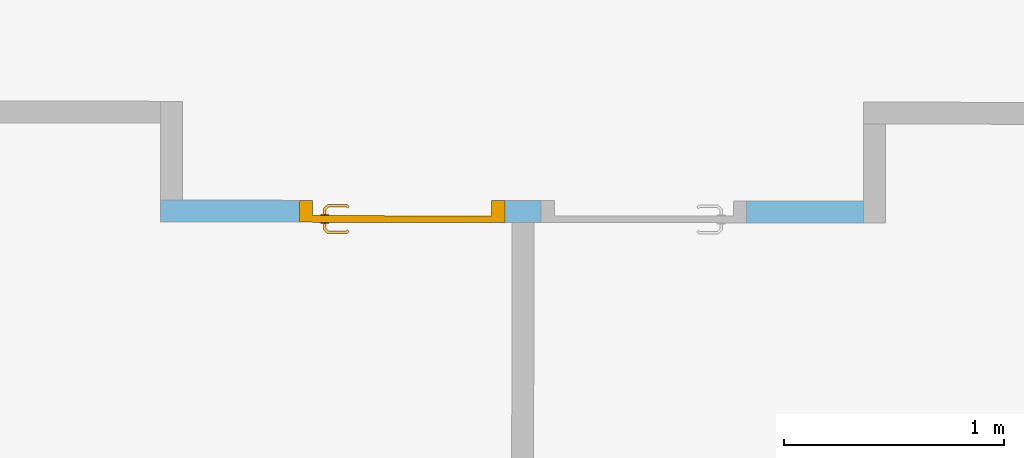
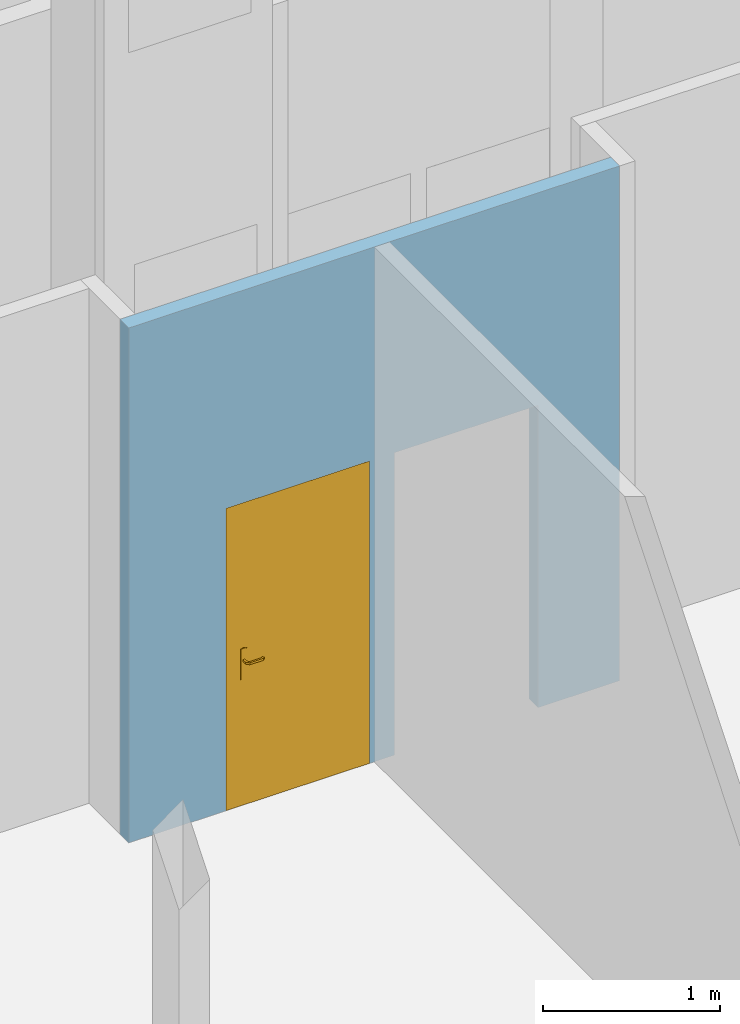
# One storey, part 46 of 101: 1 door, 2 openings, plus 1 element that does not belong to this part.
"""IFC2X3 building model written with IfcOpenShell, lengths in metres."""

import ifcopenshell
import ifcopenshell.guid

model = None  # the IFC model being written
_history = None  # IfcOwnerHistory: only IFC2X3 demands one
_inside = {}  # id of a spatial element -> (the spatial element, [elements in it])
_under = {}  # id of a project, library or spatial element -> (it, [spatial elements below it])
_declared = {}  # id of a project -> (the project, [libraries it declares])
_typed = {}  # id of a type object -> (the type object, [elements of that type])
_made_of = {}  # id of a material, layer set ... -> (it, [elements and type objects made of it])


def new_model(schema):
    """Start an empty IFC model of exactly this schema.

    Asked for "IFC4X3", IfcOpenShell would pick the latest addendum, in which some entities
    have other attributes; the version numbers below select the first issue.
    IFC2X3 requires an IfcOwnerHistory on every rooted entity: one is made here for all.
    """
    global model, _history
    if schema == "IFC4X3":
        model = ifcopenshell.file(schema_version=(4, 3, 0, 0))
    else:
        model = ifcopenshell.file(schema=schema)
    _inside.clear()
    _under.clear()
    _declared.clear()
    _typed.clear()
    _made_of.clear()
    _history = None
    if model.schema == "IFC2X3":
        org = make("IfcOrganization", Name="unknown")
        user = make(
            "IfcPersonAndOrganization",
            ThePerson=make("IfcPerson", FamilyName="unknown"),
            TheOrganization=org,
        )
        app = make(
            "IfcApplication",
            ApplicationDeveloper=org,
            Version="unknown",
            ApplicationFullName="unknown",
            ApplicationIdentifier="unknown",
        )
        _history = make(
            "IfcOwnerHistory",
            OwningUser=user,
            OwningApplication=app,
            ChangeAction="ADDED",
            CreationDate=0,
        )
    return model


def make(cls, **values):
    """One entity of the class cls with the attributes given. An attribute that is None is left unset."""
    return model.create_entity(
        cls, **{name: value for name, value in values.items() if value is not None}
    )


def entity(cls, *values):
    """Any entity or typed value of the class cls, its attributes in the order of the schema. None: left unset."""
    e = model.create_entity(cls)
    for i, value in enumerate(values):
        if value is not None:
            e[i] = value
    return e


def rooted(cls, **values):
    """An entity with a GlobalId (a new one), such as an element, a storey or a relation."""
    return make(cls, GlobalId=ifcopenshell.guid.new(), OwnerHistory=_history, **values)


def si_unit(unit_type, name, prefix=None):
    """IfcSIUnit, for example si_unit("LENGTHUNIT", "METRE", prefix="MILLI")."""
    return make("IfcSIUnit", UnitType=unit_type, Prefix=prefix, Name=name)


def converted_unit(unit_type, name, factor, base, dimensions=None, offset=None):
    """IfcConversionBasedUnit, such as the inch: factor (a typed value) times the base unit."""
    return make(
        "IfcConversionBasedUnit"
        if offset is None
        else "IfcConversionBasedUnitWithOffset",
        ConversionOffset=offset,
        Dimensions=None
        if dimensions is None
        else entity("IfcDimensionalExponents", *dimensions),
        UnitType=unit_type,
        Name=name,
        ConversionFactor=make(
            "IfcMeasureWithUnit", ValueComponent=factor, UnitComponent=base
        ),
    )


def derived_unit(unit_type, elements):
    """IfcDerivedUnit: a product of units, each with its exponent."""
    return make(
        "IfcDerivedUnit",
        Elements=[
            make("IfcDerivedUnitElement", Unit=unit, Exponent=power)
            for unit, power in elements
        ],
        UnitType=unit_type,
    )


def assignment(units):
    """IfcUnitAssignment: the units of a project."""
    return None if units is None else make("IfcUnitAssignment", Units=units)


def point(xyz):
    """IfcCartesianPoint."""
    return None if xyz is None else make("IfcCartesianPoint", Coordinates=xyz)


def direction(xyz):
    """IfcDirection."""
    return None if xyz is None else make("IfcDirection", DirectionRatios=xyz)


def frame(location, z_axis=None, x_axis=None):
    """IfcAxis2Placement3D, a coordinate frame: its origin and axes. An axis left out is left unset."""
    return make(
        "IfcAxis2Placement3D",
        Location=point(location),
        Axis=direction(z_axis),
        RefDirection=direction(x_axis),
    )


def frame_2d(location, x_axis=None):
    """IfcAxis2Placement2D, a coordinate frame in the plane: its origin and x axis."""
    return make(
        "IfcAxis2Placement2D", Location=point(location), RefDirection=direction(x_axis)
    )


def origin():
    """The frame at (0, 0, 0) with its axes left unset."""
    return frame((0.0, 0.0, 0.0))


def place(relative_to, where):
    """IfcLocalPlacement: puts the frame where relative to a parent placement (None: the world)."""
    return make(
        "IfcLocalPlacement", PlacementRelTo=relative_to, RelativePlacement=where
    )


def context(
    kind, dimensions, precision=None, world=None, true_north=None, identifier=None
):
    """IfcGeometricRepresentationContext, for example the 3D "Model" context."""
    return make(
        "IfcGeometricRepresentationContext",
        ContextIdentifier=identifier,
        ContextType=kind,
        CoordinateSpaceDimension=dimensions,
        Precision=precision,
        WorldCoordinateSystem=world,
        TrueNorth=true_north,
    )


def subcontext(parent, identifier, kind, view, scale=None):
    """IfcGeometricRepresentationSubContext, for example "Body" below "Model"."""
    return make(
        "IfcGeometricRepresentationSubContext",
        ContextIdentifier=identifier,
        ContextType=kind,
        ParentContext=parent,
        TargetScale=scale,
        TargetView=view,
    )


def project(units=None, contexts=None):
    """IfcProject with its units and contexts."""
    return rooted(
        "IfcProject",
        Name="project",
        RepresentationContexts=contexts,
        UnitsInContext=assignment(units),
    )


def spatial(cls, under=None, at=None, **own):
    """A site, building, storey or space (cls), placed at a placement, below another one or the project."""
    s = rooted(cls, ObjectPlacement=at, **own)
    if under is not None:
        _under.setdefault(under.id(), (under, []))[1].append(s)
    return s


def profile(cls, at=None, kind="AREA", **sizes):
    """A parametric profile (cls). Its sizes go by their IFC names, for example OverallWidth=200.0."""
    return make(cls, ProfileType=kind, Position=at, **sizes)


def rectangle(**sizes):
    """IfcRectangleProfileDef."""
    return profile("IfcRectangleProfileDef", **sizes)


def extrude(swept, where, along, depth):
    """IfcExtrudedAreaSolid: the profile swept, set in the frame where, extruded along a direction by depth."""
    return make(
        "IfcExtrudedAreaSolid",
        SweptArea=swept,
        Position=where,
        ExtrudedDirection=direction(along),
        Depth=depth,
    )


def faces_of(points, faces, orient=None, outer=None):
    """IfcFace entities. A face is a list of loops; a loop is a list of indices into points, from 0.

    orient and outer hold one flag for each loop. By default every Orientation is true, the
    first loop of a face is its IfcFaceOuterBound and the others are IfcFaceBound.
    """
    made = []
    for i, loops in enumerate(faces):
        bounds = []
        for j, loop in enumerate(loops):
            is_outer = j == 0 if outer is None else outer[i][j]
            bounds.append(
                make(
                    "IfcFaceOuterBound" if is_outer else "IfcFaceBound",
                    Bound=make("IfcPolyLoop", Polygon=[points[k] for k in loop]),
                    Orientation=True if orient is None else orient[i][j],
                )
            )
        made.append(make("IfcFace", Bounds=bounds))
    return made


def faceted_brep(points, faces, orient=None, outer=None, voids=None):
    """IfcFacetedBrep: a solid bounded by flat faces; with voids (closed shells), ...WithVoids."""
    shared = [point(p) for p in points]
    hull = make("IfcClosedShell", CfsFaces=faces_of(shared, faces, orient, outer))
    if voids is None:
        return make("IfcFacetedBrep", Outer=hull)
    return make(
        "IfcFacetedBrepWithVoids",
        Outer=hull,
        Voids=[
            make(cls, CfsFaces=faces_of(shared, fs, o, b)) for cls, fs, o, b in voids
        ],
    )


def shape(context_of_items, identifier, shape_type, items):
    """IfcShapeRepresentation: the items that make up one representation, for example the "Body"."""
    return make(
        "IfcShapeRepresentation",
        ContextOfItems=context_of_items,
        RepresentationIdentifier=identifier,
        RepresentationType=shape_type,
        Items=items,
    )


def source(mapping_origin, context_of_items, identifier, shape_type, items):
    """IfcRepresentationMap: a shape defined once, which mapped items show again and again."""
    return make(
        "IfcRepresentationMap",
        MappingOrigin=mapping_origin,
        MappedRepresentation=shape(context_of_items, identifier, shape_type, items),
    )


def transform(
    local_origin,
    x_axis=None,
    y_axis=None,
    z_axis=None,
    scale=None,
    scale2=None,
    scale3=None,
    uniform=True,
):
    """IfcCartesianTransformationOperator3D, or its non-uniform kind. x_axis, y_axis, z_axis: its Axis1, 2, 3."""
    if uniform:
        return make(
            "IfcCartesianTransformationOperator3D",
            Axis1=direction(x_axis),
            Axis2=direction(y_axis),
            LocalOrigin=point(local_origin),
            Scale=scale,
            Axis3=direction(z_axis),
        )
    return make(
        "IfcCartesianTransformationOperator3DnonUniform",
        Axis1=direction(x_axis),
        Axis2=direction(y_axis),
        LocalOrigin=point(local_origin),
        Scale=scale,
        Axis3=direction(z_axis),
        Scale2=scale2,
        Scale3=scale3,
    )


def mapped(mapping_source, mapping_target):
    """IfcMappedItem: shows the shape of a source again, moved by a transform."""
    return make(
        "IfcMappedItem", MappingSource=mapping_source, MappingTarget=mapping_target
    )


def material(Name=None, Category=None):
    """IfcMaterial."""
    return make("IfcMaterial", Name=Name, Category=Category)


def material_list(materials):
    """IfcMaterialList."""
    return make("IfcMaterialList", Materials=materials)


def layer(
    of_material, thickness, ventilated=None, Name=None, Category=None, Priority=None
):
    """IfcMaterialLayer: one layer of a wall or slab, of a material (None: an air gap)."""
    return make(
        "IfcMaterialLayer",
        Material=of_material,
        LayerThickness=thickness,
        IsVentilated=ventilated,
        Name=Name,
        Category=Category,
        Priority=Priority,
    )


def layer_set(layers, Name=None):
    """IfcMaterialLayerSet."""
    return make("IfcMaterialLayerSet", MaterialLayers=layers, LayerSetName=Name)


def layer_usage(for_layer_set, set_direction, sense, offset, extent=None):
    """IfcMaterialLayerSetUsage: how a layer set lies in its element."""
    return make(
        "IfcMaterialLayerSetUsage",
        ForLayerSet=for_layer_set,
        LayerSetDirection=set_direction,
        DirectionSense=sense,
        OffsetFromReferenceLine=offset,
        ReferenceExtent=extent,
    )


def made_of(thing, what):
    """Note that an element or type object is made of a material, layer set ...; save() writes the relation."""
    if what is not None:
        _made_of.setdefault(what.id(), (what, []))[1].append(thing)
    return thing


def type_object(cls, material=None, **own):
    """A type object (cls), such as IfcWallType, which elements share."""
    return made_of(rooted(cls, **own), material)


def type_shapes(of_type, sources):
    """Give a type object the sources (RepresentationMaps) that its elements show as mapped items."""
    of_type.RepresentationMaps = sources


def element(
    cls,
    number,
    at=None,
    inside=None,
    cuts=None,
    type_object=None,
    material=None,
    context=None,
    identifier="Body",
    shape_type=None,
    held_by="IfcProductDefinitionShape",
    body=None,
    shapes=None,
    **own,
):
    """One element of the class cls, such as IfcWall. Its Tag is "e" and its number.

    at: its placement. inside: the storey or other place that contains it. cuts: it is an
    opening in that element (IfcRelVoidsElement). A single representation is given by context,
    identifier, shape_type and body (its items); several are given by shapes. held_by: the class
    of the entity that holds the representations. save() writes the other relations.
    """
    e = rooted(cls, Tag="e%d" % number, ObjectPlacement=at, **own)
    if body is not None:
        shapes = [shape(context, identifier, shape_type, body)]
    if shapes is not None:
        e.Representation = make(held_by, Representations=shapes)
    if inside is not None:
        _inside.setdefault(inside.id(), (inside, []))[1].append(e)
    if cuts is not None:
        rooted(
            "IfcRelVoidsElement", RelatingBuildingElement=cuts, RelatedOpeningElement=e
        )
    if type_object is not None:
        _typed.setdefault(type_object.id(), (type_object, []))[1].append(e)
    return made_of(e, material)


def fill(opening, filler):
    """IfcRelFillsElement: the door or window that sits in an opening."""
    return rooted(
        "IfcRelFillsElement",
        RelatingOpeningElement=opening,
        RelatedBuildingElement=filler,
    )


def aggregate(whole, parts):
    """IfcRelAggregates: a whole, such as a stair, and the parts it consists of."""
    return rooted("IfcRelAggregates", RelatingObject=whole, RelatedObjects=parts)


def save(model, path):
    """Write the relations noted so far, then the file.

    IfcRelAggregates (storeys below a building ...), IfcRelContainedInSpatialStructure (elements
    in a storey), IfcRelDefinesByType, IfcRelAssociatesMaterial and IfcRelDeclares: one each for
    every whole, place, type object, material and project.
    """
    for whole, parts in _under.values():
        aggregate(whole, parts)
    for where, things in _inside.values():
        rooted(
            "IfcRelContainedInSpatialStructure",
            RelatedElements=things,
            RelatingStructure=where,
        )
    for kind, things in _typed.values():
        rooted("IfcRelDefinesByType", RelatedObjects=things, RelatingType=kind)
    for what, things in _made_of.values():
        rooted("IfcRelAssociatesMaterial", RelatedObjects=things, RelatingMaterial=what)
    for by, libraries in _declared.values():
        rooted("IfcRelDeclares", RelatingContext=by, RelatedDefinitions=libraries)
    model.write(path)


model = new_model("IFC2X3")

# Units and contexts
model_context = context("Model", 3, precision=1e-05, world=origin(), true_north=direction((6.123233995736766e-17, 1.0)))
body_context = subcontext(model_context, "Body", "Model", "MODEL_VIEW")
ifc_project = project(units=[si_unit("LENGTHUNIT", "METRE"), si_unit("AREAUNIT", "SQUARE_METRE"), converted_unit("PLANEANGLEUNIT", "DEGREE", entity("IfcPlaneAngleMeasure", 0.017453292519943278), si_unit("PLANEANGLEUNIT", "RADIAN"), dimensions=[0, 0, 0, 0, 0, 0, 0]), derived_unit("THERMALTRANSMITTANCEUNIT", [(si_unit("MASSUNIT", "GRAM", prefix="KILO"), 1), (si_unit("THERMODYNAMICTEMPERATUREUNIT", "KELVIN"), -1), (si_unit("TIMEUNIT", "SECOND"), -3)])], contexts=[model_context])

# Site, building, storey
site_placement = place(None, frame((1253.6752467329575, 2072.143113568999, 91.49999999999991), z_axis=(0.0, 0.0, 1.0), x_axis=(0.7237211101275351, 0.6900925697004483, 0.0)))
site = spatial("IfcSite", under=ifc_project, at=site_placement, Name="Surface", CompositionType="ELEMENT")
building_placement = place(site_placement, origin())
building = spatial("IfcBuilding", under=site, at=building_placement, CompositionType="ELEMENT")
storey_placement = place(building_placement, origin())
storey = spatial("IfcBuildingStorey", under=building, at=storey_placement, Name="0- Rdc", CompositionType="ELEMENT", Elevation=-5.764692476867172e-13)

# Wall, openings, door
ifc_material_1 = material(Name="OMD_Béton blanc")
ifc_layer = layer(ifc_material_1, 0.1)
ifc_layer_set = layer_set([ifc_layer], Name="Mur de base:MUR 10")
ifc_layer_usage = layer_usage(ifc_layer_set, "AXIS2", "NEGATIVE", 0.05)
wall_type = type_object("IfcWallType", Name="Mur de base:MUR 10", PredefinedType="STANDARD", material=ifc_layer_set)
wall_placement = place(storey_placement, frame((155.02169583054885, 2.2505814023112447, 0.0), z_axis=(0.0, 0.0, 1.0), x_axis=(0.722870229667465, -0.6909838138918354, 0.0)))
wall = element("IfcWallStandardCase", 1, at=wall_placement, inside=storey, type_object=wall_type, material=ifc_layer_usage, Name="Mur de base:MUR 10", ObjectType="Mur de base:MUR 10", context=body_context, shape_type="SweptSolid", body=[
    extrude(rectangle(XDim=3.2000000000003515, YDim=0.09999999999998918, at=frame_2d((1.600000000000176, 2.588207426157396e-15), x_axis=(-1.0, 0.0))), origin(), (0.0, 0.0, 1.0), 3.5499999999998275),
])
opening_1_placement = place(wall_placement, frame((2.667499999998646, 0.05000000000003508, 0.0)))
element("IfcOpeningElement", 2, at=opening_1_placement, cuts=wall, Name="OMD_Porte 1V tunnel:80x204:1", ObjectType="Opening", context=body_context, shape_type="SweptSolid", body=[
    extrude(rectangle(XDim=2.0850000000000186, YDim=0.9349999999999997, at=frame_2d((1.0425000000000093, 0.46749999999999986), x_axis=(1.0, 0.0))), frame((0.0, 0.0, 0.0), z_axis=(0.0, -1.0, 0.0), x_axis=(0.0, 0.0, 1.0)), (0.0, 0.0, 1.0), 0.09999999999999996),
])
opening_2_placement = place(wall_placement, frame((1.5674999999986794, 0.05000000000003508, 0.0)))
opening_2 = element("IfcOpeningElement", 3, at=opening_2_placement, cuts=wall, Name="OMD_Porte 1V tunnel:80x204:1", ObjectType="Opening", context=body_context, shape_type="SweptSolid", body=[
    extrude(rectangle(XDim=2.0850000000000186, YDim=0.9349999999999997, at=frame_2d((1.0425000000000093, 0.46749999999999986), x_axis=(1.0, 0.0))), frame((0.0, 0.0, 0.0), z_axis=(0.0, -1.0, 0.0), x_axis=(0.0, 0.0, 1.0)), (0.0, 0.0, 1.0), 0.09999999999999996),
])
ifc_material_2 = material(Name="Porte - Poignée")
ifc_material_3 = material(Name="OMD_Peinture mur")
ifc_material_4 = material(Name="OMD_Bois")
ifc_material_list = material_list([ifc_material_2, ifc_material_3, ifc_material_4])
door_style = type_object("IfcDoorStyle", Name="OMD_Porte 1V tunnel:80x204", ConstructionType="NOTDEFINED", OperationType="NOTDEFINED", ParameterTakesPrecedence=False, Sizeable=False, material=ifc_material_list)
shared_shape = source(origin(), body_context, "Body", "Brep", [
    faceted_brep([(0.21297470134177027, 0.03500000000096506, 1.0077804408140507), (0.20900000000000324, 0.03500000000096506, 1.0069999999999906), (0.208999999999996, 0.03500000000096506, 0.9929999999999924), (0.21297470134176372, 0.03500000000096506, 0.9922195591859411), (0.21702529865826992, 0.03500000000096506, 0.9922195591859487), (0.22100000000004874, 0.03500000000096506, 0.9930000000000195), (0.22100000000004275, 0.03500000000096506, 1.0069999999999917), (0.2170252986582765, 0.03500000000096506, 1.007780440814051), (0.22100000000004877, 0.05748520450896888, 0.9930000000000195), (0.22100000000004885, 0.057485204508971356, 1.0069999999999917), (0.21702529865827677, 0.059131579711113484, 1.007780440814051), (0.23083890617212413, 0.07294518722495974, 1.007780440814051), (0.2291610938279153, 0.07699578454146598, 1.0077804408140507), (0.21297470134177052, 0.060809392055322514, 1.0077804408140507), (0.3206847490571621, 0.0664673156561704, 1.0077804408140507), (0.32354895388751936, 0.06933152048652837, 1.0077804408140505), (0.31588468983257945, 0.07699578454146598, 1.0077804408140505), (0.31420687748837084, 0.07294518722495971, 1.0077804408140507), (0.20900000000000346, 0.06245576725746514, 1.0069999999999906), (0.20900000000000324, 0.06245576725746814, 0.9929999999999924), (0.21297470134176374, 0.06080939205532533, 0.9922195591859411), (0.22916109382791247, 0.07699578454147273, 0.9922195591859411), (0.23083890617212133, 0.07294518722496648, 0.9922195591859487), (0.21702529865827, 0.05913157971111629, 0.9922195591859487), (0.32354895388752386, 0.06933152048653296, 0.9922195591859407), (0.3206847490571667, 0.06646731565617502, 0.9922195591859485), (0.3142068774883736, 0.07294518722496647, 0.9922195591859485), (0.3158846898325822, 0.07699578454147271, 0.9922195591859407), (0.23248528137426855, 0.0689704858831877, 0.9930000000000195), (0.23248528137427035, 0.06897048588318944, 1.0069999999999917), (0.22751471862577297, 0.0809704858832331, 1.0069999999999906), (0.22751471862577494, 0.08097048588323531, 0.9929999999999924), (0.2725228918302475, 0.06897048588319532, 0.9930000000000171), (0.3125605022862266, 0.06897048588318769, 0.9930000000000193), (0.31256050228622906, 0.06897048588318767, 1.0069999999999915), (0.2725228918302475, 0.0689704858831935, 1.0069999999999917), (0.2725228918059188, 0.07512492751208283, 1.0078781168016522), (0.31753106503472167, 0.08097048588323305, 1.0069999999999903), (0.2776005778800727, 0.08097048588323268, 1.0069999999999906), (0.31753106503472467, 0.08097048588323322, 0.9929999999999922), (0.2674452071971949, 0.08097048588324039, 0.9929999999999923), (0.2725228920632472, 0.07512492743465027, 0.9921218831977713), (0.317874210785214, 0.06365677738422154, 0.9930000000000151), (0.32635949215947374, 0.07214205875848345, 0.99299999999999), (0.3263594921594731, 0.07214205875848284, 1.0069999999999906), (0.317874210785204, 0.06365677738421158, 1.0069999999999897)], [[[0, 1, 2, 3, 4, 5, 6, 7]], [[6, 5, 8, 9]], [[9, 10, 7, 6]], [[10, 11, 12, 13, 0, 7]], [[14, 15, 16, 17]], [[13, 18, 1, 0]], [[2, 1, 18, 19]], [[19, 20, 3, 2]], [[20, 21, 22, 23, 4, 3]], [[24, 25, 26, 27]], [[23, 8, 5, 4]], [[9, 8, 28, 29]], [[29, 11, 10, 9]], [[12, 30, 18, 13]], [[19, 18, 30, 31]], [[31, 21, 20, 19]], [[22, 28, 8, 23]], [[29, 28, 32, 33, 34, 35]], [[11, 35, 36]], [[16, 37, 38]], [[30, 12, 38]], [[38, 12, 36]], [[36, 35, 17]], [[17, 16, 36]], [[35, 11, 29]], [[34, 17, 35]], [[11, 36, 12]], [[38, 36, 16]], [[31, 30, 38, 37, 39, 40]], [[40, 41, 21]], [[41, 40, 27]], [[21, 31, 40]], [[39, 27, 40]], [[41, 32, 22]], [[22, 21, 41]], [[26, 32, 41]], [[28, 22, 32]], [[32, 26, 33]], [[26, 41, 27]], [[42, 25, 24, 43, 44, 15, 14, 45]], [[34, 33, 42, 45]], [[45, 14, 17, 34]], [[15, 44, 37, 16]], [[39, 37, 44, 43]], [[43, 24, 27, 39]], [[25, 42, 33, 26]]]),
    faceted_brep([(0.21297470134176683, -0.004999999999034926, 1.0077804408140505), (0.2170252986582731, -0.004999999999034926, 1.007780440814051), (0.2210000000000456, -0.004999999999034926, 1.006999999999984), (0.22100000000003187, -0.004999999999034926, 0.9930000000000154), (0.21702529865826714, -0.004999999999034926, 0.9922195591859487), (0.21297470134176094, -0.004999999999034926, 0.992219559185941), (0.20900000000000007, -0.004999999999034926, 0.992999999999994), (0.20900000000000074, -0.004999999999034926, 1.0069999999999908), (0.20900000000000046, -0.03265095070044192, 1.0069999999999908), (0.21297470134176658, -0.03100457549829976, 1.0077804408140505), (0.22902358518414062, -0.04705345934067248, 1.0077804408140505), (0.2307013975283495, -0.04300286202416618, 1.007780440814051), (0.21702529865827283, -0.02932676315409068, 1.007780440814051), (0.3235218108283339, -0.039389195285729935, 1.0077804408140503), (0.3206576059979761, -0.03652499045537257, 1.0077804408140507), (0.3141797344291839, -0.04300286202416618, 1.0077804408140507), (0.31585754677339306, -0.04705345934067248, 1.0077804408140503), (0.22100000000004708, -0.027680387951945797, 1.0069999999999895), (0.22100000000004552, -0.02768038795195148, 0.9930000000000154), (0.21702529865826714, -0.029326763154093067, 0.9922195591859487), (0.23070139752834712, -0.04300286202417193, 0.9922195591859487), (0.2290235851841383, -0.0470534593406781, 0.992219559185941), (0.21297470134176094, -0.031004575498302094, 0.992219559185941), (0.32065760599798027, -0.036524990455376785, 0.9922195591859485), (0.3235218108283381, -0.03938919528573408, 0.9922195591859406), (0.31585754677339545, -0.047053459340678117, 0.9922195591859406), (0.3141797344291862, -0.04300286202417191, 0.9922195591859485), (0.20899999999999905, -0.032650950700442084, 0.9929999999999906), (0.22737720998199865, -0.051028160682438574, 1.0069999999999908), (0.23234777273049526, -0.03902816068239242, 1.0069999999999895), (0.23234777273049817, -0.03902816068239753, 0.9930000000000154), (0.22737720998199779, -0.051028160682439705, 0.9929999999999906), (0.2673076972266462, -0.05102816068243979, 1.0069999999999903), (0.272440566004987, -0.0451828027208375, 1.0078781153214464), (0.3175039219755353, -0.05102816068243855, 1.0069999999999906), (0.27244056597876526, -0.039028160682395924, 1.0069999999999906), (0.3125333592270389, -0.03902816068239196, 1.0069999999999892), (0.31253335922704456, -0.03902816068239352, 0.9930000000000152), (0.27244056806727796, -0.03902816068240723, 0.9930000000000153), (0.27244056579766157, -0.04518280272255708, 0.9921218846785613), (0.3175039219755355, -0.051028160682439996, 0.9929999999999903), (0.27757344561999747, -0.051028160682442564, 0.9929999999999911), (0.3178470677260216, -0.03371445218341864, 1.0069999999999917), (0.3263323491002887, -0.04219973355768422, 1.0069999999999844), (0.3263323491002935, -0.04219973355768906, 0.9929999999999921), (0.31784706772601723, -0.033714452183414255, 0.9930000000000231)], [[[0, 1, 2, 3, 4, 5, 6, 7]], [[8, 9, 0, 7]], [[9, 10, 11, 12, 1, 0]], [[13, 14, 15, 16]], [[12, 17, 2, 1]], [[3, 2, 17, 18]], [[18, 19, 4, 3]], [[19, 20, 21, 22, 5, 4]], [[23, 24, 25, 26]], [[22, 27, 6, 5]], [[7, 6, 27, 8]], [[28, 10, 9, 8]], [[11, 29, 17, 12]], [[18, 17, 29, 30]], [[30, 20, 19, 18]], [[21, 31, 27, 22]], [[8, 27, 31, 28]], [[32, 33, 10]], [[33, 32, 16]], [[10, 28, 32]], [[34, 16, 32]], [[33, 35, 11]], [[11, 10, 33]], [[15, 35, 33]], [[29, 11, 35]], [[35, 15, 36]], [[15, 33, 16]], [[30, 29, 35, 36, 37, 38]], [[20, 38, 39]], [[25, 40, 41]], [[31, 21, 41]], [[41, 21, 39]], [[39, 38, 26]], [[26, 25, 39]], [[38, 20, 30]], [[37, 26, 38]], [[20, 39, 21]], [[41, 39, 25]], [[28, 31, 41, 40, 34, 32]], [[42, 14, 13, 43, 44, 24, 23, 45]], [[43, 13, 16, 34]], [[14, 42, 36, 15]], [[37, 36, 42, 45]], [[45, 23, 26, 37]], [[24, 44, 40, 25]], [[34, 40, 44, 43]]]),
    faceted_brep([(0.22535276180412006, 0.030000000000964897, 0.8660039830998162), (0.2350000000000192, 0.030000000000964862, 0.8700000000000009), (0.2350000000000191, 0.030000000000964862, 1.0800000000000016), (0.2253527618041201, 0.030000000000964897, 1.0839960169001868), (0.21500000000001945, 0.030000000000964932, 1.0853589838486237), (0.20464723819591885, 0.03000000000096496, 1.0839960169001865), (0.19500000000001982, 0.030000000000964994, 1.0800000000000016), (0.19500000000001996, 0.030000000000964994, 0.8700000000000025), (0.20464723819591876, 0.03000000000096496, 0.866003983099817), (0.21500000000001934, 0.030000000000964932, 0.8646410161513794), (0.22535276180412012, 0.0350000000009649, 1.0839960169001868), (0.2350000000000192, 0.03500000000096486, 1.0800000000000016), (0.23500000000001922, 0.03500000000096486, 0.8700000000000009), (0.22535276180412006, 0.0350000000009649, 0.8660039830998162), (0.21500000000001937, 0.03500000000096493, 0.8646410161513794), (0.20464723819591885, 0.03500000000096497, 0.866003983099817), (0.19500000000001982, 0.035000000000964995, 0.8700000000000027), (0.19500000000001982, 0.035000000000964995, 1.0800000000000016), (0.20464723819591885, 0.03500000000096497, 1.0839960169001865), (0.21500000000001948, 0.03500000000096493, 1.0853589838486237)], [[[0, 1, 2, 3, 4, 5, 6, 7, 8, 9]], [[10, 11, 12, 13, 14, 15, 16, 17, 18, 19]], [[11, 10, 3, 2]], [[3, 10, 19, 4]], [[19, 18, 5, 4]], [[18, 17, 6, 5]], [[7, 6, 17, 16]], [[16, 15, 8, 7]], [[8, 15, 14, 9]], [[14, 13, 0, 9]], [[13, 12, 1, 0]], [[2, 1, 12, 11]]]),
    faceted_brep([(0.22535276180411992, -0.004999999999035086, 0.8660039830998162), (0.2350000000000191, -0.004999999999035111, 0.8700000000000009), (0.23500000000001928, -0.004999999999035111, 1.0800000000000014), (0.22535276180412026, -0.004999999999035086, 1.0839960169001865), (0.2150000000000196, -0.004999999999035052, 1.0853589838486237), (0.20464723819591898, -0.0049999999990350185, 1.0839960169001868), (0.19500000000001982, -0.004999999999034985, 1.0800000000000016), (0.19500000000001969, -0.004999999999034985, 0.8700000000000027), (0.20464723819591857, -0.0049999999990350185, 0.8660039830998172), (0.21500000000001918, -0.004999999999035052, 0.8646410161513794), (0.22535276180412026, 0.0, 1.0839960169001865), (0.2350000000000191, 0.0, 1.0800000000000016), (0.2350000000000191, 0.0, 0.8700000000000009), (0.22535276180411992, 0.0, 0.8660039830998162), (0.21500000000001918, 0.0, 0.8646410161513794), (0.20464723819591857, 0.0, 0.8660039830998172), (0.19500000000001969, 0.0, 0.8700000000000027), (0.19500000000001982, 0.0, 1.0800000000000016), (0.20464723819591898, 0.0, 1.0839960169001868), (0.2150000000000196, 0.0, 1.0853589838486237)], [[[0, 1, 2, 3, 4, 5, 6, 7, 8, 9]], [[10, 11, 12, 13, 14, 15, 16, 17, 18, 19]], [[16, 15, 8, 7]], [[8, 15, 14, 9]], [[14, 13, 0, 9]], [[13, 12, 1, 0]], [[2, 1, 12, 11]], [[11, 10, 3, 2]], [[3, 10, 19, 4]], [[19, 18, 5, 4]], [[18, 17, 6, 5]], [[7, 6, 17, 16]]]),
    faceted_brep([(0.14500000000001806, 0.030000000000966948, 0.0), (0.9900000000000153, 0.030000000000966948, 0.0), (0.9900000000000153, 0.0, 0.0), (0.14500000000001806, 0.0, 0.0), (0.14500000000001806, 0.030000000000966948, 2.04), (0.14500000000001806, 0.0, 2.04), (0.9900000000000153, 0.0, 2.04), (0.9900000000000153, 0.030000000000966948, 2.04)], [[[0, 1, 2, 3]], [[4, 0, 3, 5]], [[5, 3, 2, 6]], [[6, 2, 1, 7]], [[7, 1, 0, 4]], [[4, 5, 6, 7]]]),
    faceted_brep([(0.10000000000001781, 0.0, 0.0), (0.10000000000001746, 0.10000000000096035, 0.0), (0.16000000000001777, 0.10000000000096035, 0.0), (0.16000000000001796, 0.03000000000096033, 0.0), (0.145000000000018, 0.03000000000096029, 0.0), (0.14500000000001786, 0.0, 0.0), (0.145000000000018, 0.0, 2.04), (0.9900000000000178, 0.0, 2.0400000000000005), (0.9900000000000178, 0.0, 0.0), (1.0350000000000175, 0.0, 0.0), (1.0350000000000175, 0.0, 2.085), (0.10000000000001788, 0.0, 2.085), (0.14500000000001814, 0.030000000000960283, 2.04), (0.16000000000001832, 0.03000000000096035, 2.0249999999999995), (0.9750000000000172, 0.03000000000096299, 2.0249999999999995), (0.9750000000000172, 0.03000000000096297, 0.0), (0.9900000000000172, 0.03000000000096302, 0.0), (0.9900000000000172, 0.03000000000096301, 2.0399999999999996), (0.16000000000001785, 0.10000000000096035, 2.0249999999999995), (0.1000000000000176, 0.10000000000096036, 2.085), (1.0350000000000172, 0.10000000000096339, 2.085), (1.0350000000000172, 0.10000000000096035, 0.0), (0.9750000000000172, 0.10000000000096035, 0.0), (0.9750000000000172, 0.10000000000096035, 2.025)], [[[0, 1, 2, 3, 4, 5]], [[5, 6, 7, 8, 9, 10, 11, 0]], [[4, 12, 6, 5]], [[3, 13, 14, 15, 16, 17, 12, 4]], [[2, 18, 13, 3]], [[1, 19, 20, 21, 22, 23, 18, 2]], [[0, 11, 19, 1]], [[10, 9, 21, 20]], [[9, 8, 16, 15, 22, 21]], [[17, 16, 8, 7]], [[23, 22, 15, 14]], [[12, 17, 7, 6]], [[18, 23, 14, 13]], [[11, 10, 20, 19]]]),
])
type_shapes(door_style, [shared_shape])
door_placement = place(opening_2_placement, frame((-1.0350000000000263, -0.10000000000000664, 0.0)))
door = element("IfcDoor", 4, at=door_placement, inside=storey, type_object=door_style, material=ifc_material_list, Name="OMD_Porte 1V tunnel:80x204", ObjectType="OMD_Porte 1V tunnel:80x204", OverallHeight=2.0850000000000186, OverallWidth=0.9350000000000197, context=body_context, shape_type="MappedRepresentation", body=[
    mapped(shared_shape, transform((0.0, 0.0, 0.0), scale=1.0)),
])
fill(opening_2, door)

save(model, "model.ifc")
